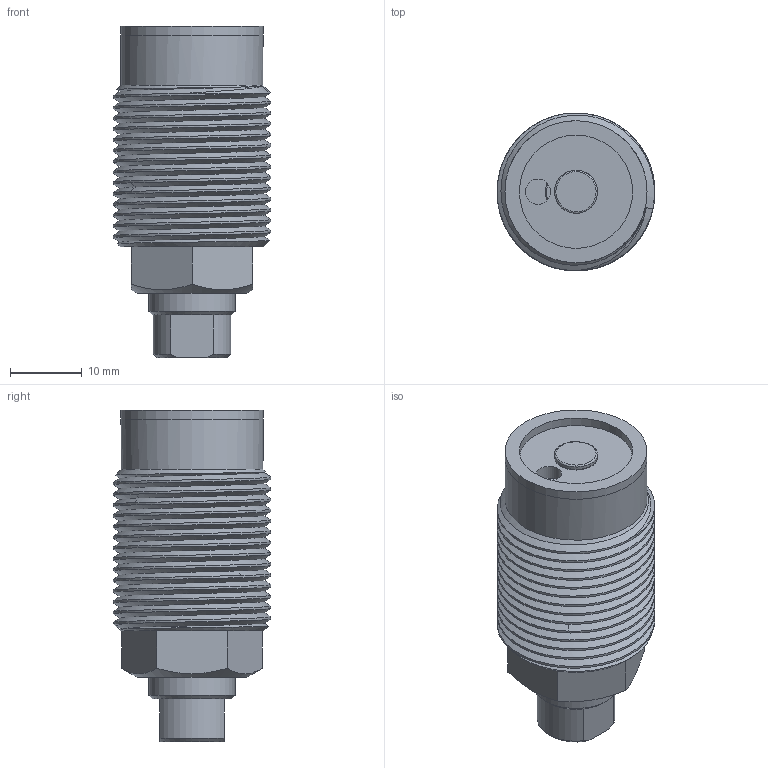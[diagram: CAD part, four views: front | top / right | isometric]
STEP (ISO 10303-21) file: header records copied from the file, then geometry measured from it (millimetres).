
FILE_DESCRIPTION(/* description */ (''),/* implementation_level */ '2;1');
FILE_NAME(/* name */ 'CTC-12B.stp',/* time_stamp */ '2022-04-28T11:00:36+08:00',/* author */ (''),/* organization */ (''),/* preprocessor_version */ 'ST-DEVELOPER v16.7',/* originating_system */ 'SIEMENS PLM Software NX 12.0',/* authorisation */ '');
FILE_SCHEMA (('AUTOMOTIVE_DESIGN { 1 0 10303 214 3 1 1 1 }'));
Length unit declared in the file: millimetre
Products named in the file (1): CTC-12B
Bounding box: 22 x 22 x 46.25 mm (x, y, z)
Volume: 10686 mm3; surface area: 9926.9 mm2
Topology: 5 solids, 5 shells, 288 faces, 759 edges, 507 vertices
Faces by surface type: plane 166, extrusion 55, cylinder 38, bspline 18, cone 9, torus 2
Full cylindrical faces by diameter (mm): 3.5 x1, 4 x2, 5 x8, 6 x1, 8.2 x1, 8.5 x7, 11 x1, 12 x1, 12.2 x1, 14.8 x1, 15.4 x1, 15.8 x1, 17 x2, 19.8 x2
Entity records: 17256 total; most frequent: CARTESIAN_POINT 9592, ORIENTED_EDGE 1362, DIRECTION 1016, EDGE_CURVE 681, VECTOR 500, VERTEX_POINT 469, LINE 445, EDGE_LOOP 333
